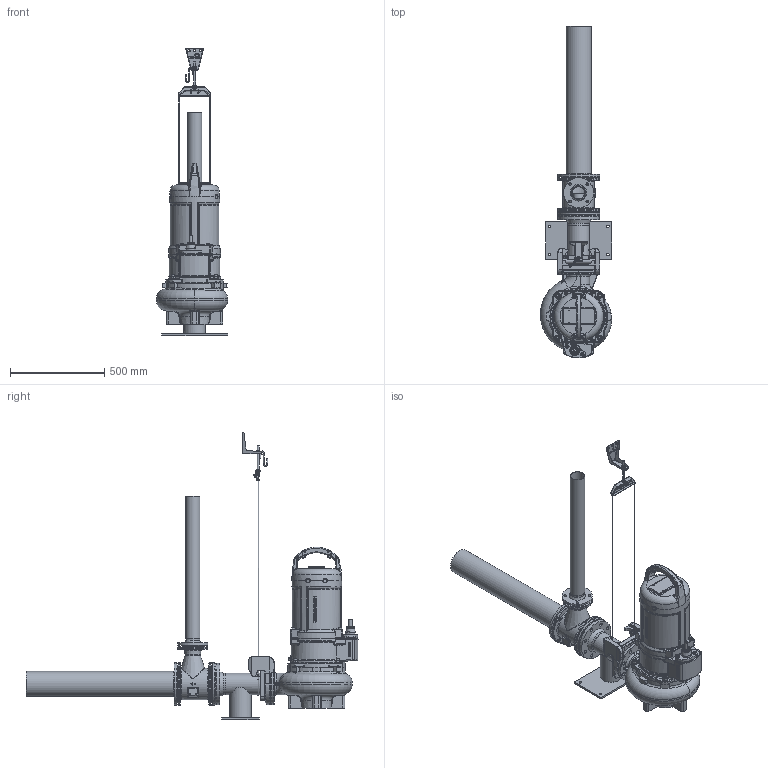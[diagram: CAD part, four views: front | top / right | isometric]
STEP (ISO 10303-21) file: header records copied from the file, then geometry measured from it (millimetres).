
FILE_DESCRIPTION(/* description */ (''),/* implementation_level */ '2;1');
FILE_NAME(/* name */ 'H:\3D\Projekte\@Wirbeljet\700 Amajet_2021_step\Amajet_V_Wire_KA_16.stp',/* time_stamp */ '2021-04-12T22:44:13+02:00',/* author */ ('emmrpat'),/* organization */ (''),/* preprocessor_version */ 'ST-DEVELOPER v18',/* originating_system */ 'Autodesk Inventor 2020',/* authorisation */ '');
FILE_SCHEMA (('AUTOMOTIVE_DESIGN { 1 0 10303 214 3 1 1 }'));
Length unit declared in the file: millimetre
Products named in the file (32): Amajet_V_Wire_KA_13; Dichtung1_DN100_5mm; Flansch_0W308059; 0W308365_Vari_01_Duese; Strahlrohr_133mm_800mm; 0W308365_Vari_01_Duese_1; Dichtung_DN100_5mm; Dichtung_DN65_4mm_110; 0W308366_800mm_Belueftung; 0W308366_800mm_Rohr; Vorschweißflansch_DN65_PN6; 0W382247_Mischkammer; VX-Stuetzfuss; Halterung KRT100-; KRT_100-250; UG155595214_01; ug1004874zmn001_01; ug1004383zmn001_01; ug1510147zmk001_01_BODY; ug1510095zmk001_01; ug1510137zmk001_01; ug1510136zmk001_01; ug1510110zmk001_01; UG154735011ZMM001_02; UG153885001ZMM001_01; ug1012584zmn001_01; ug1002091zmn001_01; UG154911611ZMM001_04; ISO 4032 - M16; ISO 7089 -  16; DIN 835 - M16 x 50; Konsole_165mm_VX-Aufstellung
Assembly tree (56 placements, depth 4):
  Amajet_V_Wire_KA_13
    Dichtung1_DN100_5mm
    Flansch_0W308059
    Dichtung_DN100_5mm  x2
    0W308365_Vari_01_Duese
    Strahlrohr_133mm_800mm
    0W308365_Vari_01_Duese_1
    Dichtung_DN65_4mm_110
    0W308366_800mm_Belueftung
      0W308366_800mm_Rohr
      Vorschweißflansch_DN65_PN6
    0W382247_Mischkammer
    VX-Stuetzfuss
    Halterung KRT100-
    KRT_100-250
    UG155595214_01
      ug1004874zmn001_01  x4
      ug1004383zmn001_01  x2
      ug1510147zmk001_01_BODY
        ug1510095zmk001_01
        ug1510137zmk001_01  x12
        ug1510136zmk001_01
        ug1510110zmk001_01
      UG154735011ZMM001_02
      UG153885001ZMM001_01
      ug1012584zmn001_01
      ug1002091zmn001_01
      UG154911611ZMM001_04
      ISO 4032 - M16  x4
      ISO 7089 -  16  x4
      DIN 835 - M16 x 50  x4
    Konsole_165mm_VX-Aufstellung
Bounding box: 378.15 x 1763.2 x 1527.04 mm (x, y, z)
Volume: 23895538.5 mm3; surface area: 4941076.4 mm2
Topology: 62 solids, 64 shells, 3222 faces, 7911 edges, 4865 vertices
Faces by surface type: plane 1017, cylinder 910, bspline 691, torus 340, cone 166, sphere 98
Full cylindrical faces by diameter (mm): 3 x12, 3.05 x2, 3.3 x1, 4 x20, 5 x25, 6 x13, 6.8 x1, 7 x24, 8 x4, 8.5 x6, 10 x10, 11 x6, 12 x13, 13 x4, 13.835 x10, 14 x8, 15.25 x1, 16 x14, 16.662 x1, 17 x4, 17.1 x1, 17.5 x4, 18 x27, 22 x1, 23 x1, 30 x5, 34 x2, 37.5 x2, 41 x1, 50 x1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
Entity records: 133441 total; most frequent: CARTESIAN_POINT 60920, ORIENTED_EDGE 14866, DIRECTION 14248, EDGE_CURVE 7433, AXIS2_PLACEMENT_3D 5821, VERTEX_POINT 4632, EDGE_LOOP 3423, CIRCLE 3144
